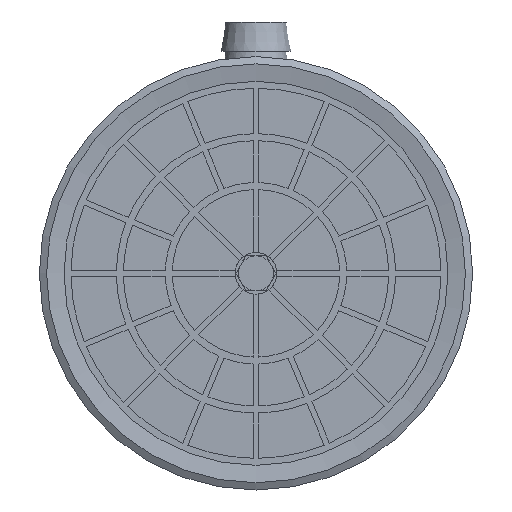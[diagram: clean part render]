
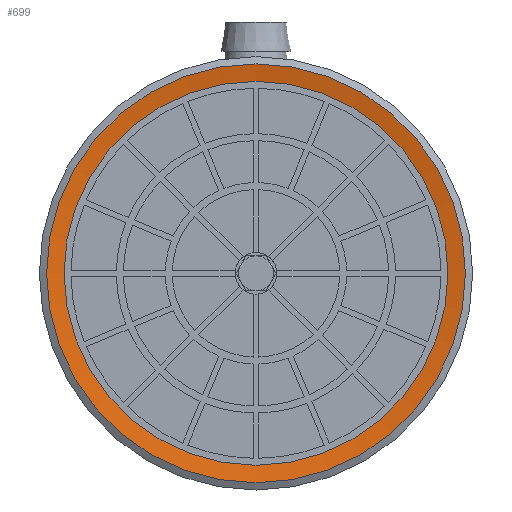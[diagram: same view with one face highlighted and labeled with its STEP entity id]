
A CAD part, front view. The second image highlights one B-rep face of the part: STEP entity #699.
In plain terms, the highlighted conical face has half-angle 80 degrees and reference radius 15 mm.
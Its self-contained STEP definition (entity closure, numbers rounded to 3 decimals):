
#699=ADVANCED_FACE('',(#1339,#1340),#1341,.F.);
#1339=FACE_BOUND('',#2165,.T.);
#1340=FACE_OUTER_BOUND('',#2166,.T.);
#1341=CONICAL_SURFACE('',#2167,15.0,1.396);
#2165=EDGE_LOOP('',(#3946));
#2166=EDGE_LOOP('',(#3947));
#2167=AXIS2_PLACEMENT_3D('',#3948,#3949,#3950);
#3946=ORIENTED_EDGE('',*,*,#5709,.T.);
#3947=ORIENTED_EDGE('',*,*,#5710,.F.);
#3948=CARTESIAN_POINT('',(0.0,0.,0.));
#3949=DIRECTION('',(0.0,0.,-1.0));
#3950=DIRECTION('',(0.0,1.0,0.));
#5709=EDGE_CURVE('',#6915,#6915,#6916,.T.);
#5710=EDGE_CURVE('',#6917,#6917,#6918,.T.);
#6915=VERTEX_POINT('',#8923);
#6916=CIRCLE('',#8924,13.75);
#6917=VERTEX_POINT('',#8925);
#6918=CIRCLE('',#8926,15.0);
#8923=CARTESIAN_POINT('',(0.0,-13.75,0.22));
#8924=AXIS2_PLACEMENT_3D('',#10316,#10317,#10318);
#8925=CARTESIAN_POINT('',(0.0,-15.0,0.));
#8926=AXIS2_PLACEMENT_3D('',#10319,#10320,#10321);
#10316=CARTESIAN_POINT('',(0.0,0.,0.22));
#10317=DIRECTION('',(0.0,0.,1.0));
#10318=DIRECTION('',(0.0,-1.0,0.));
#10319=CARTESIAN_POINT('',(0.0,0.,0.));
#10320=DIRECTION('',(0.0,0.,1.0));
#10321=DIRECTION('',(0.0,-1.0,0.));
